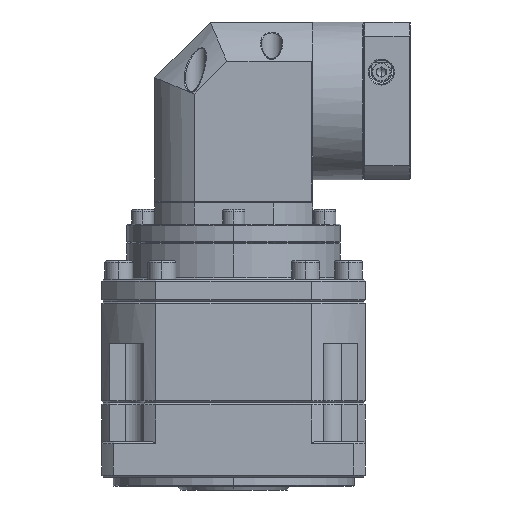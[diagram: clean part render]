
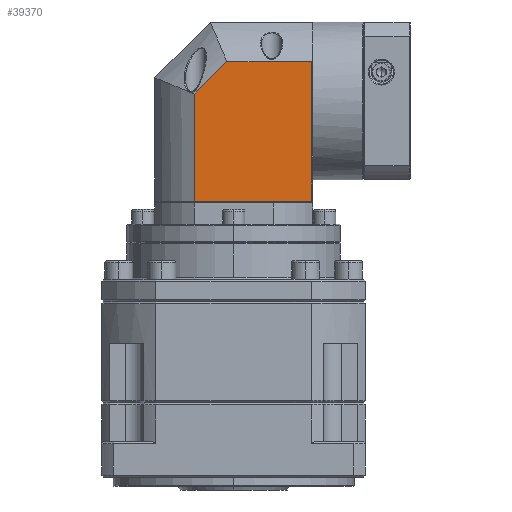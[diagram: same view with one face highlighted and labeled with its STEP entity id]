
A CAD part, front view. The second image highlights one B-rep face of the part: STEP entity #39370.
In plain terms, the highlighted planar face has unit normal (0, -1, 0).
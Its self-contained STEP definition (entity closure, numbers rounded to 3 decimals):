
#1953 = VECTOR ( 'NONE', #170123, 1000. ) ;
#2553 = EDGE_CURVE ( 'NONE', #85296, #86732, #125303, .T. ) ;
#6508 = CARTESIAN_POINT ( 'NONE',  ( -181.404, 20.324, 50.811 ) ) ;
#7799 = PLANE ( 'NONE',  #143455 ) ;
#9599 = DIRECTION ( 'NONE',  ( 0., 1., 0. ) ) ;
#15929 = VECTOR ( 'NONE', #73173, 1000. ) ;
#16952 = ORIENTED_EDGE ( 'NONE', *, *, #160324, .F. ) ;
#20001 = CARTESIAN_POINT ( 'NONE',  ( -118.191, 20.324, 29.524 ) ) ;
#35161 = DIRECTION ( 'NONE',  ( 0.707, 0., 0.707 ) ) ;
#35739 = ORIENTED_EDGE ( 'NONE', *, *, #102845, .F. ) ;
#39370 = ADVANCED_FACE ( 'NONE', ( #161520 ), #7799, .F. ) ;
#45246 = CARTESIAN_POINT ( 'NONE',  ( -163.873, 20.324, 29.524 ) ) ;
#53441 = LINE ( 'NONE', #126794, #15929 ) ;
#53884 = VERTEX_POINT ( 'NONE', #145504 ) ;
#61717 = LINE ( 'NONE', #104127, #94795 ) ;
#62294 = VERTEX_POINT ( 'NONE', #45246 ) ;
#62361 = CARTESIAN_POINT ( 'NONE',  ( -181.404, 20.324, 11.993 ) ) ;
#73173 = DIRECTION ( 'NONE',  ( 1., 0., 0. ) ) ;
#76871 = DIRECTION ( 'NONE',  ( 1., 0., 0. ) ) ;
#77700 = EDGE_CURVE ( 'NONE', #62294, #85296, #134896, .T. ) ;
#79440 = VERTEX_POINT ( 'NONE', #62361 ) ;
#85296 = VERTEX_POINT ( 'NONE', #20001 ) ;
#86732 = VERTEX_POINT ( 'NONE', #117387 ) ;
#94795 = VECTOR ( 'NONE', #35161, 1000. ) ;
#97479 = VECTOR ( 'NONE', #76871, 1000. ) ;
#101675 = EDGE_CURVE ( 'NONE', #53884, #86732, #53441, .T. ) ;
#102845 = EDGE_CURVE ( 'NONE', #79440, #62294, #61717, .T. ) ;
#104127 = CARTESIAN_POINT ( 'NONE',  ( -181.404, 20.324, 11.993 ) ) ;
#116948 = CARTESIAN_POINT ( 'NONE',  ( -117.691, 20.324, 29.524 ) ) ;
#117387 = CARTESIAN_POINT ( 'NONE',  ( -118.191, 20.324, -45.689 ) ) ;
#120331 = EDGE_LOOP ( 'NONE', ( #173173, #134829, #141236, #35739, #16952 ) ) ;
#122877 = DIRECTION ( 'NONE',  ( -1., 0., 0. ) ) ;
#125303 = LINE ( 'NONE', #127106, #1953 ) ;
#126794 = CARTESIAN_POINT ( 'NONE',  ( -117.691, 20.324, -45.689 ) ) ;
#127106 = CARTESIAN_POINT ( 'NONE',  ( -118.191, 20.324, 50.811 ) ) ;
#134829 = ORIENTED_EDGE ( 'NONE', *, *, #2553, .F. ) ;
#134896 = LINE ( 'NONE', #116948, #97479 ) ;
#141236 = ORIENTED_EDGE ( 'NONE', *, *, #77700, .F. ) ;
#143044 = VECTOR ( 'NONE', #146843, 1000. ) ;
#143455 = AXIS2_PLACEMENT_3D ( 'NONE', #147529, #9599, #122877 ) ;
#145504 = CARTESIAN_POINT ( 'NONE',  ( -181.404, 20.324, -45.689 ) ) ;
#146843 = DIRECTION ( 'NONE',  ( 0., 0., 1. ) ) ;
#147418 = LINE ( 'NONE', #6508, #143044 ) ;
#147529 = CARTESIAN_POINT ( 'NONE',  ( -117.691, 20.324, 50.811 ) ) ;
#160324 = EDGE_CURVE ( 'NONE', #53884, #79440, #147418, .T. ) ;
#161520 = FACE_OUTER_BOUND ( 'NONE', #120331, .T. ) ;
#170123 = DIRECTION ( 'NONE',  ( 0., 0., -1. ) ) ;
#173173 = ORIENTED_EDGE ( 'NONE', *, *, #101675, .T. ) ;
